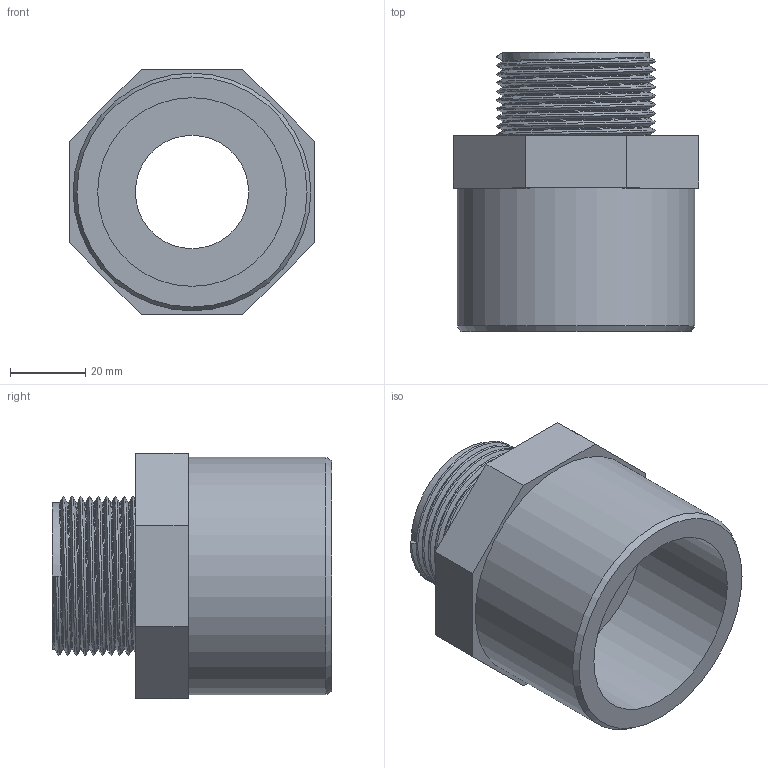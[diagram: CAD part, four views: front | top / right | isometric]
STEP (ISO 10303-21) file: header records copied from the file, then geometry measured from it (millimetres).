
FILE_DESCRIPTION(/* description */ ('PVC adattatore incollaggio-filettatura BSP maschio'),/* implementation_level */ '2;1');
FILE_NAME(/* name */ 'C:\Users\POLYPIPE\Desktop\DATASET INVENTOR\LIBRERIA EFFAST\RACCORDI 3DxWEB\RGR\3D_RGRAMG\3D_RGRAMG050E.stp',/* time_stamp */ '2018-01-19T17:36:09+01:00',/* author */ ('POLYPIPE'),/* organization */ ('Polypipe Italia s.r.l.'),/* preprocessor_version */ 'ST-DEVELOPER v16.1',/* originating_system */ 'Autodesk Inventor 2016',/* authorisation */ '');
FILE_SCHEMA (('CONFIG_CONTROL_DESIGN'));
Length unit declared in the file: millimetre
Products named in the file (1): 3D_RGRAMG
Bounding box: 65 x 74 x 65 mm (x, y, z)
Volume: 101566.1 mm3; surface area: 29639.5 mm2
Topology: 1 solids, 1 shells, 26 faces, 56 edges, 36 vertices
Faces by surface type: plane 15, cylinder 5, bspline 5, cone 1
Full cylindrical faces by diameter (mm): 30 x1, 31 x1, 38.952 x1, 50 x1, 63 x1
Entity records: 4147 total; most frequent: CARTESIAN_POINT 3594, ORIENTED_EDGE 102, DIRECTION 97, EDGE_CURVE 51, EDGE_LOOP 37, VERTEX_POINT 36, AXIS2_PLACEMENT_3D 35, LINE 27
